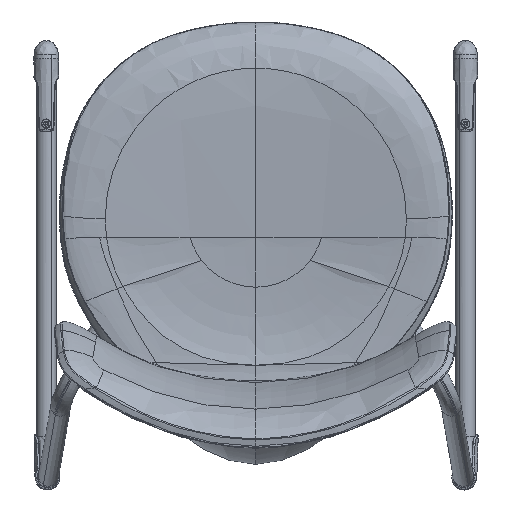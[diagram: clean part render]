
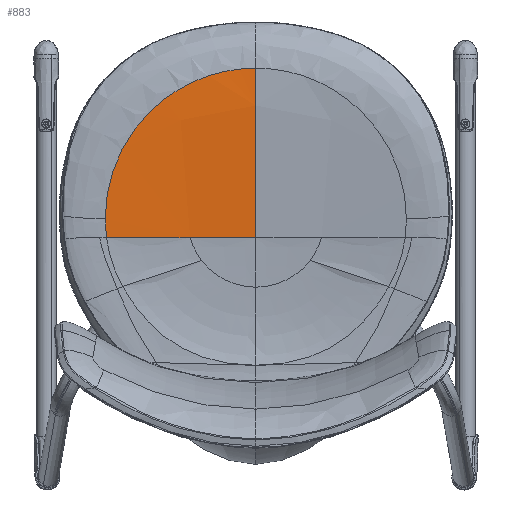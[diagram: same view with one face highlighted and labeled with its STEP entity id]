
A CAD part, top view. The second image highlights one B-rep face of the part: STEP entity #883.
In plain terms, the highlighted free-form (B-spline) face has degree [3, 2] with [5, 3] control points.
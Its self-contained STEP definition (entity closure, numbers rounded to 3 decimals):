
#883=ADVANCED_FACE($,(#2075),#15604,.T.);
#2075=FACE_OUTER_BOUND($,#3291,.T.);
#3291=EDGE_LOOP($,(#7693,#7694,#7695,#7696,#7697));
#7693=ORIENTED_EDGE($,*,*,#11853,.T.);
#7694=ORIENTED_EDGE($,*,*,#11856,.F.);
#7695=ORIENTED_EDGE($,*,*,#11855,.T.);
#7696=ORIENTED_EDGE($,*,*,#11849,.T.);
#7697=ORIENTED_EDGE($,*,*,#11854,.F.);
#11849=EDGE_CURVE($,#14416,#14415,#18680,.T.);
#11853=EDGE_CURVE($,#14418,#14420,#18684,.T.);
#11854=EDGE_CURVE($,#14418,#14415,#18685,.T.);
#11855=EDGE_CURVE($,#14409,#14416,#18686,.T.);
#11856=EDGE_CURVE($,#14409,#14420,#18687,.T.);
#14409=VERTEX_POINT($,#139796);
#14415=VERTEX_POINT($,#139802);
#14416=VERTEX_POINT($,#139803);
#14418=VERTEX_POINT($,#139805);
#14420=VERTEX_POINT($,#139807);
#15604=(
BOUNDED_SURFACE()
B_SPLINE_SURFACE(3,2,((#118266,#118267,#118268),(#118269,#118270,#118271),
(#118272,#118273,#118274),(#118275,#118276,#118277),(#118278,#118279,#118280)),
.UNSPECIFIED.,.F.,.F.,.F.)
B_SPLINE_SURFACE_WITH_KNOTS((4,1,4),(3,3),(1.804,56.77,
188.474),(4708.172,4876.286),.UNSPECIFIED.)
GEOMETRIC_REPRESENTATION_ITEM()
RATIONAL_B_SPLINE_SURFACE(((1.,0.998,1.),(1.,0.998,
1.),(1.,0.998,1.),(1.,0.998,1.),(1.,0.998,
1.)))
REPRESENTATION_ITEM($)
SURFACE()
);
#18680=B_SPLINE_CURVE_WITH_KNOTS($,3,(#99690,#99691,#99692,#99693,#99694,
#99695,#99696,#99697,#99698,#99699,#99700,#99701,#99702,#99703),.UNSPECIFIED.,
.F.,.F.,(4,2,2,2,2,2,4),(-1.,-0.75,-0.625,-0.5,
-0.375,-0.25,0.),.UNSPECIFIED.);
#18684=B_SPLINE_CURVE_WITH_KNOTS($,5,(#99721,#99722,#99723,#99724,#99725,
#99726,#99727),.UNSPECIFIED.,.F.,.F.,(6,1,6),(-72.472,-20.879,
0.),.UNSPECIFIED.);
#18685=B_SPLINE_CURVE_WITH_KNOTS($,3,(#99728,#99729,#99730,#99731,#99732),
.UNSPECIFIED.,.F.,.F.,(4,1,4),(-1.,-0.294,0.),.UNSPECIFIED.);
#18686=B_SPLINE_CURVE_WITH_KNOTS($,5,(#99733,#99734,#99735,#99736,#99737,
#99738),.UNSPECIFIED.,.F.,.F.,(6,6),(-1.,0.),.UNSPECIFIED.);
#18687=B_SPLINE_CURVE_WITH_KNOTS($,5,(#99739,#99740,#99741,#99742,#99743,
#99744,#99745,#99746,#99747),.UNSPECIFIED.,.F.,.F.,(6,1,1,1,6),(0.,23.139,
46.278,69.416,92.555),.UNSPECIFIED.);
#99690=CARTESIAN_POINT($,(-166.,240.783,-360.973));
#99691=CARTESIAN_POINT($,(-166.,267.473,-359.819));
#99692=CARTESIAN_POINT($,(-159.42,293.679,-359.351));
#99693=CARTESIAN_POINT($,(-141.876,327.917,-359.62));
#99694=CARTESIAN_POINT($,(-134.65,338.647,-359.859));
#99695=CARTESIAN_POINT($,(-118.586,357.608,-360.486));
#99696=CARTESIAN_POINT($,(-109.846,365.71,-360.888));
#99697=CARTESIAN_POINT($,(-92.644,378.952,-361.872));
#99698=CARTESIAN_POINT($,(-84.285,384.087,-362.43));
#99699=CARTESIAN_POINT($,(-67.981,392.5,-363.527));
#99700=CARTESIAN_POINT($,(-59.998,395.81,-364.07));
#99701=CARTESIAN_POINT($,(-35.089,403.965,-365.56));
#99702=CARTESIAN_POINT($,(-17.039,406.783,-366.292));
#99703=CARTESIAN_POINT($,(0.,406.783,-366.292));
#99721=CARTESIAN_POINT($,(0.,220.,-371.062));
#99722=CARTESIAN_POINT($,(-10.319,220.,-371.062));
#99723=CARTESIAN_POINT($,(-24.812,220.,-370.938));
#99724=CARTESIAN_POINT($,(-39.305,220.,-370.638));
#99725=CARTESIAN_POINT($,(-53.793,220.,-370.162));
#99726=CARTESIAN_POINT($,(-68.273,220.,-369.512));
#99727=CARTESIAN_POINT($,(-72.444,220.,-369.31));
#99728=CARTESIAN_POINT($,(0.,220.,-371.062));
#99729=CARTESIAN_POINT($,(0.,259.494,-369.495));
#99730=CARTESIAN_POINT($,(0.,320.741,-366.396));
#99731=CARTESIAN_POINT($,(0.,389.122,-364.057));
#99732=CARTESIAN_POINT($,(0.,406.783,-366.292));
#99733=CARTESIAN_POINT($,(-164.694,220.,-361.985));
#99734=CARTESIAN_POINT($,(-165.218,224.157,-361.761));
#99735=CARTESIAN_POINT($,(-165.61,228.308,-361.548));
#99736=CARTESIAN_POINT($,(-165.87,232.451,-361.345));
#99737=CARTESIAN_POINT($,(-166.,236.615,-361.153));
#99738=CARTESIAN_POINT($,(-166.,240.783,-360.973));
#99739=CARTESIAN_POINT($,(-164.694,220.,-361.985));
#99740=CARTESIAN_POINT($,(-160.094,220.,-362.494));
#99741=CARTESIAN_POINT($,(-150.891,220.,-363.475));
#99742=CARTESIAN_POINT($,(-137.074,220.,-364.841));
#99743=CARTESIAN_POINT($,(-118.633,220.,-366.449));
#99744=CARTESIAN_POINT($,(-100.168,220.,-367.772));
#99745=CARTESIAN_POINT($,(-86.309,220.,-368.604));
#99746=CARTESIAN_POINT($,(-77.066,220.,-369.087));
#99747=CARTESIAN_POINT($,(-72.444,220.,-369.31));
#118266=CARTESIAN_POINT($,(0.,406.783,-366.292));
#118267=CARTESIAN_POINT($,(-83.872,406.783,-366.292));
#118268=CARTESIAN_POINT($,(-167.217,406.783,-356.903));
#118269=CARTESIAN_POINT($,(0.,389.122,-364.057));
#118270=CARTESIAN_POINT($,(-83.747,389.122,-364.057));
#118271=CARTESIAN_POINT($,(-166.967,389.122,-354.682));
#118272=CARTESIAN_POINT($,(0.,320.741,-366.396));
#118273=CARTESIAN_POINT($,(-83.878,320.741,-366.396));
#118274=CARTESIAN_POINT($,(-167.229,320.741,-357.006));
#118275=CARTESIAN_POINT($,(0.,259.494,-369.495));
#118276=CARTESIAN_POINT($,(-84.052,259.494,-369.495));
#118277=CARTESIAN_POINT($,(-167.576,259.494,-360.086));
#118278=CARTESIAN_POINT($,(0.,220.,-371.062));
#118279=CARTESIAN_POINT($,(-84.14,220.,-371.062));
#118280=CARTESIAN_POINT($,(-167.751,220.,-361.644));
#139796=CARTESIAN_POINT($,(-164.694,220.,-361.985));
#139802=CARTESIAN_POINT($,(0.,406.783,-366.292));
#139803=CARTESIAN_POINT($,(-166.,240.783,-360.973));
#139805=CARTESIAN_POINT($,(0.,220.,-371.062));
#139807=CARTESIAN_POINT($,(-72.444,220.,-369.31));
